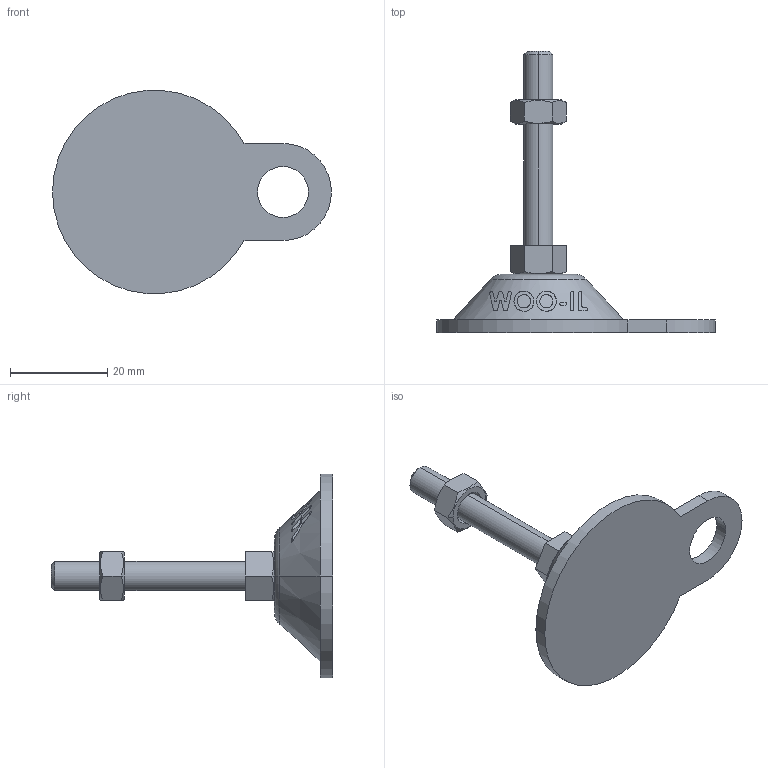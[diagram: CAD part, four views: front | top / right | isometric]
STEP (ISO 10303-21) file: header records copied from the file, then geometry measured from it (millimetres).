
FILE_DESCRIPTION (( 'STEP AP214' ), '1' );
FILE_NAME ('ABL42-M6-40.step', '2021-02-05T04:18:13', ( '' ), ( '' ), 'SwSTEP 2.0', 'SolidWorks 2019', '' );
FILE_SCHEMA (( 'AUTOMOTIVE_DESIGN' ));
Length unit declared in the file: millimetre
Products named in the file (2): ABL42-M6-40
Bounding box: 57.5 x 58 x 41.86 mm (x, y, z)
Volume: 11365.1 mm3; surface area: 5423.1 mm2
Topology: 2 solids, 2 shells, 127 faces, 322 edges, 210 vertices
Faces by surface type: plane 48, cylinder 37, cone 22, bspline 18, torus 2
Entity records: 5440 total; most frequent: CARTESIAN_POINT 2583, ORIENTED_EDGE 644, DIRECTION 466, EDGE_CURVE 322, VERTEX_POINT 210, AXIS2_PLACEMENT_3D 173, EDGE_LOOP 142, B_SPLINE_CURVE_WITH_KNOTS 140
